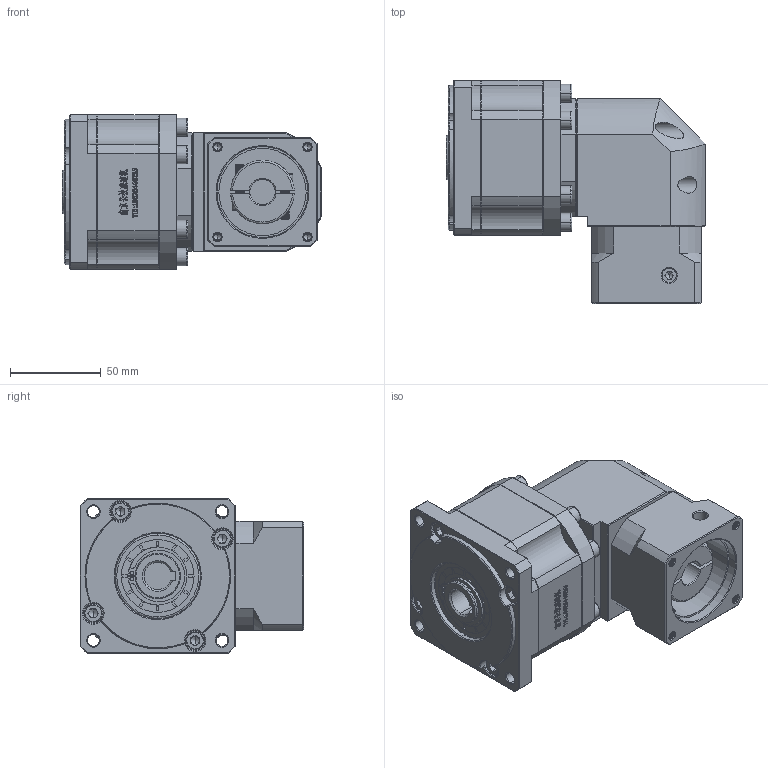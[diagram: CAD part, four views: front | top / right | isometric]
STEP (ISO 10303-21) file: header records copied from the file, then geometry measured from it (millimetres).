
FILE_DESCRIPTION (( 'STEP AP214' ), '1' );
FILE_NAME ('ZBR90-K15-L2-14-50-70-M5.step', '2022-05-07T15:24:13', ( '' ), ( 'Microsoft' ), 'SwSTEP 2.0', 'SolidWorks 2016', '' );
FILE_SCHEMA (( 'AUTOMOTIVE_DESIGN' ));
Length unit declared in the file: millimetre
Products named in the file (1): ZBR90-K15-L2-14-50-70-M5
Bounding box: 142.5 x 122.7 x 85 mm (x, y, z)
Volume: 781826.4 mm3; surface area: 98092.4 mm2
Topology: 5 solids, 5 shells, 2990 faces, 8013 edges, 5166 vertices
Faces by surface type: plane 1591, bspline 610, cylinder 418, cone 363, torus 8
Entity records: 157482 total; most frequent: CARTESIAN_POINT 54338, ORIENTED_EDGE 15938, DIRECTION 12278, EDGE_CURVE 7969, LINE 5306, VECTOR 5306, VERTEX_POINT 5166, AXIS2_PLACEMENT_3D 3486
